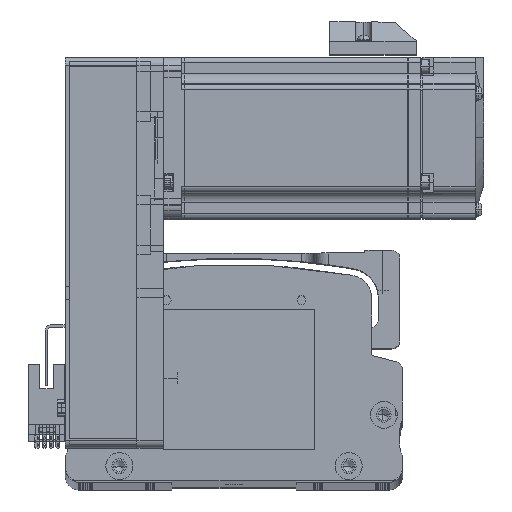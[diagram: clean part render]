
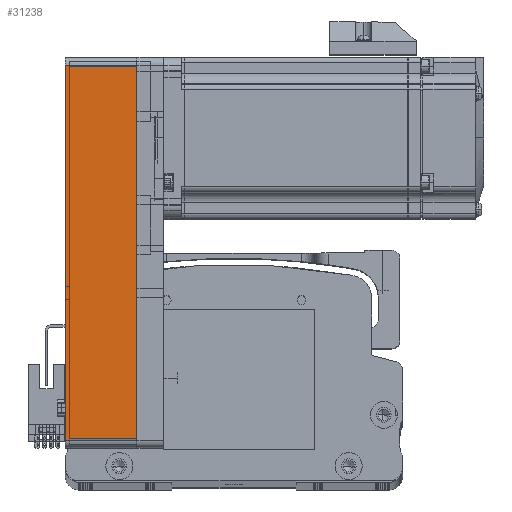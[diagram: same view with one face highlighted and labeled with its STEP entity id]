
A CAD part, top view. The second image highlights one B-rep face of the part: STEP entity #31238.
In plain terms, the highlighted planar face has unit normal (0, 0, 1) as drawn and (0, -1, 0) by its records, which use the part's own axes.
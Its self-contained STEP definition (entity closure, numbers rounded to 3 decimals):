
#5418 = DIRECTION ( 'NONE',  ( 0., 0., 1. ) ) ;
#5688 = CARTESIAN_POINT ( 'NONE',  ( 69.5, -30., 0. ) ) ;
#8981 = CARTESIAN_POINT ( 'NONE',  ( -69.5, -30., 26.5 ) ) ;
#9023 = VECTOR ( 'NONE', #14422, 1000. ) ;
#9725 = LINE ( 'NONE', #55175, #27910 ) ;
#10427 = LINE ( 'NONE', #8981, #26496 ) ;
#12777 = EDGE_CURVE ( 'NONE', #42449, #16453, #43196, .T. ) ;
#13661 = ORIENTED_EDGE ( 'NONE', *, *, #12777, .T. ) ;
#14422 = DIRECTION ( 'NONE',  ( 1., 0., 0. ) ) ;
#16453 = VERTEX_POINT ( 'NONE', #5688 ) ;
#20001 = CARTESIAN_POINT ( 'NONE',  ( 72.5, -30., 26.5 ) ) ;
#20476 = VERTEX_POINT ( 'NONE', #72512 ) ;
#21278 = DIRECTION ( 'NONE',  ( 1., 0., 0. ) ) ;
#22625 = LINE ( 'NONE', #87051, #72708 ) ;
#25078 = CARTESIAN_POINT ( 'NONE',  ( 69.5, -30., 26.5 ) ) ;
#26496 = VECTOR ( 'NONE', #42994, 1000. ) ;
#26834 = DIRECTION ( 'NONE',  ( -1., 0., 0. ) ) ;
#27183 = ORIENTED_EDGE ( 'NONE', *, *, #52991, .T. ) ;
#27910 = VECTOR ( 'NONE', #21278, 1000. ) ;
#31238 = ADVANCED_FACE ( 'NONE', ( #70553 ), #73960, .F. ) ;
#42449 = VERTEX_POINT ( 'NONE', #64709 ) ;
#42994 = DIRECTION ( 'NONE',  ( 0., 0., -1. ) ) ;
#43196 = LINE ( 'NONE', #62401, #9023 ) ;
#52991 = EDGE_CURVE ( 'NONE', #20476, #42449, #10427, .T. ) ;
#55175 = CARTESIAN_POINT ( 'NONE',  ( 72.5, -30., 26.5 ) ) ;
#57249 = EDGE_CURVE ( 'NONE', #20476, #64059, #9725, .T. ) ;
#57872 = AXIS2_PLACEMENT_3D ( 'NONE', #20001, #67695, #26834 ) ;
#61879 = EDGE_LOOP ( 'NONE', ( #13661, #62652, #86380, #27183 ) ) ;
#62401 = CARTESIAN_POINT ( 'NONE',  ( 72.5, -30., 0. ) ) ;
#62652 = ORIENTED_EDGE ( 'NONE', *, *, #81611, .T. ) ;
#64059 = VERTEX_POINT ( 'NONE', #25078 ) ;
#64709 = CARTESIAN_POINT ( 'NONE',  ( -69.5, -30., 0. ) ) ;
#67695 = DIRECTION ( 'NONE',  ( 0., 1., 0. ) ) ;
#70553 = FACE_OUTER_BOUND ( 'NONE', #61879, .T. ) ;
#72512 = CARTESIAN_POINT ( 'NONE',  ( -69.5, -30., 26.5 ) ) ;
#72708 = VECTOR ( 'NONE', #5418, 1000. ) ;
#73960 = PLANE ( 'NONE',  #57872 ) ;
#81611 = EDGE_CURVE ( 'NONE', #16453, #64059, #22625, .T. ) ;
#86380 = ORIENTED_EDGE ( 'NONE', *, *, #57249, .F. ) ;
#87051 = CARTESIAN_POINT ( 'NONE',  ( 69.5, -30., 26.5 ) ) ;
